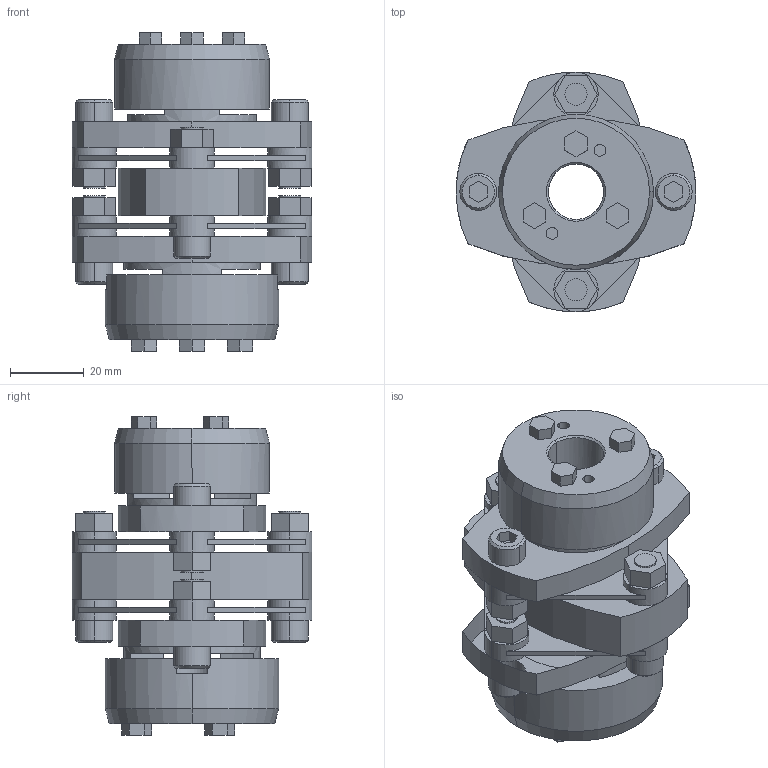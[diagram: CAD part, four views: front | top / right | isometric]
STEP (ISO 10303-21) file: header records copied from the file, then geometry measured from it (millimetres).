
FILE_DESCRIPTION((''),'2;1');
FILE_NAME('LCD-65T7-14×18.stp','2015-10-28T08:56:35',(''),(''),'AutoCAD STEP 2000i','AutoCAD 2000i',', , ');
FILE_SCHEMA(('CONFIG_CONTROL_DESIGN'));
Length unit declared in the file: millimetre
Products named in the file (8): LCD-65T7-14×17; 忣兜1; LC65T7-T017; LC65T7-T015; LC65T7-T014-1; LC65T7-T014; LC65T7-T015-1; LCD65-ITA
Assembly tree (8 placements, depth 2):
  LCD-65T7-14×17
    忣兜1
    LC65T7-T017
    LC65T7-T015  x2
    LC65T7-T014-1
    LC65T7-T014
    LC65T7-T015-1
    LCD65-ITA
Bounding box: 65 x 65 x 86.4 mm (x, y, z)
Volume: 115164.6 mm3; surface area: 40535.1 mm2
Topology: 1 solids, 1 shells, 300 faces, 795 edges, 535 vertices
Faces by surface type: plane 178, cylinder 98, cone 24
Entity records: 9571 total; most frequent: DIRECTION 1700, CARTESIAN_POINT 1625, ORIENTED_EDGE 1562, EDGE_CURVE 781, AXIS2_PLACEMENT_3D 596, VERTEX_POINT 509, VECTOR 508, LINE 508
